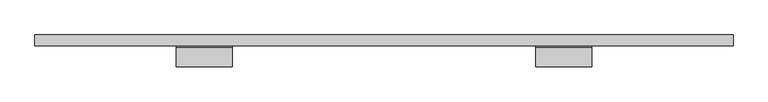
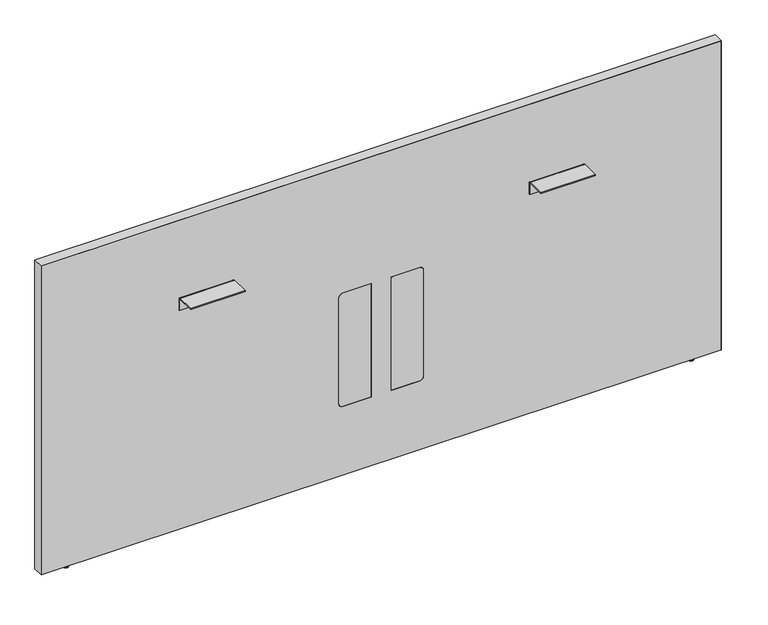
"""IFC4 building model written with IfcOpenShell, lengths in millimetres: furniture geometry, Steelcase - Answer Solution - Boundary Screen - Straight - Spanning : 36H x 75W."""

import ifcopenshell
import ifcopenshell.guid

model = None  # the IFC model being written
_history = None  # IfcOwnerHistory: only IFC2X3 demands one
_inside = {}  # id of a spatial element -> (the spatial element, [elements in it])
_under = {}  # id of a project, library or spatial element -> (it, [spatial elements below it])
_declared = {}  # id of a project -> (the project, [libraries it declares])
_typed = {}  # id of a type object -> (the type object, [elements of that type])
_made_of = {}  # id of a material, layer set ... -> (it, [elements and type objects made of it])


def new_model(schema):
    """Start an empty IFC model of exactly this schema.

    Asked for "IFC4X3", IfcOpenShell would pick the latest addendum, in which some entities
    have other attributes; the version numbers below select the first issue.
    IFC2X3 requires an IfcOwnerHistory on every rooted entity: one is made here for all.
    """
    global model, _history
    if schema == "IFC4X3":
        model = ifcopenshell.file(schema_version=(4, 3, 0, 0))
    else:
        model = ifcopenshell.file(schema=schema)
    _inside.clear()
    _under.clear()
    _declared.clear()
    _typed.clear()
    _made_of.clear()
    _history = None
    if model.schema == "IFC2X3":
        org = make("IfcOrganization", Name="unknown")
        user = make(
            "IfcPersonAndOrganization",
            ThePerson=make("IfcPerson", FamilyName="unknown"),
            TheOrganization=org,
        )
        app = make(
            "IfcApplication",
            ApplicationDeveloper=org,
            Version="unknown",
            ApplicationFullName="unknown",
            ApplicationIdentifier="unknown",
        )
        _history = make(
            "IfcOwnerHistory",
            OwningUser=user,
            OwningApplication=app,
            ChangeAction="ADDED",
            CreationDate=0,
        )
    return model


def make(cls, **values):
    """One entity of the class cls with the attributes given. An attribute that is None is left unset."""
    return model.create_entity(
        cls, **{name: value for name, value in values.items() if value is not None}
    )


def rooted(cls, **values):
    """An entity with a GlobalId (a new one), such as an element, a storey or a relation."""
    return make(cls, GlobalId=ifcopenshell.guid.new(), OwnerHistory=_history, **values)


def si_unit(unit_type, name, prefix=None):
    """IfcSIUnit, for example si_unit("LENGTHUNIT", "METRE", prefix="MILLI")."""
    return make("IfcSIUnit", UnitType=unit_type, Prefix=prefix, Name=name)


def assignment(units):
    """IfcUnitAssignment: the units of a project."""
    return None if units is None else make("IfcUnitAssignment", Units=units)


def point(xyz):
    """IfcCartesianPoint."""
    return None if xyz is None else make("IfcCartesianPoint", Coordinates=xyz)


def direction(xyz):
    """IfcDirection."""
    return None if xyz is None else make("IfcDirection", DirectionRatios=xyz)


def frame(location, z_axis=None, x_axis=None):
    """IfcAxis2Placement3D, a coordinate frame: its origin and axes. An axis left out is left unset."""
    return make(
        "IfcAxis2Placement3D",
        Location=point(location),
        Axis=direction(z_axis),
        RefDirection=direction(x_axis),
    )


def frame_2d(location, x_axis=None):
    """IfcAxis2Placement2D, a coordinate frame in the plane: its origin and x axis."""
    return make(
        "IfcAxis2Placement2D", Location=point(location), RefDirection=direction(x_axis)
    )


def origin():
    """The frame at (0, 0, 0) with its axes left unset."""
    return frame((0.0, 0.0, 0.0))


def place(relative_to, where):
    """IfcLocalPlacement: puts the frame where relative to a parent placement (None: the world)."""
    return make(
        "IfcLocalPlacement", PlacementRelTo=relative_to, RelativePlacement=where
    )


def context(
    kind, dimensions, precision=None, world=None, true_north=None, identifier=None
):
    """IfcGeometricRepresentationContext, for example the 3D "Model" context."""
    return make(
        "IfcGeometricRepresentationContext",
        ContextIdentifier=identifier,
        ContextType=kind,
        CoordinateSpaceDimension=dimensions,
        Precision=precision,
        WorldCoordinateSystem=world,
        TrueNorth=true_north,
    )


def project(units=None, contexts=None):
    """IfcProject with its units and contexts."""
    return rooted(
        "IfcProject",
        Name="project",
        RepresentationContexts=contexts,
        UnitsInContext=assignment(units),
    )


def spatial(cls, under=None, at=None, **own):
    """A site, building, storey or space (cls), placed at a placement, below another one or the project."""
    s = rooted(cls, ObjectPlacement=at, **own)
    if under is not None:
        _under.setdefault(under.id(), (under, []))[1].append(s)
    return s


def polyline(points):
    """IfcPolyline through the points."""
    return make("IfcPolyline", Points=[point(p) for p in points])


def circle_curve(where, radius):
    """IfcCircle in the frame where."""
    return make("IfcCircle", Position=where, Radius=radius)


def ellipse_curve(where, semi_axis1, semi_axis2):
    """IfcEllipse in the frame where."""
    return make(
        "IfcEllipse", Position=where, SemiAxis1=semi_axis1, SemiAxis2=semi_axis2
    )


def trimmed(basis, trim1, trim2, sense, master):
    """IfcTrimmedCurve: the piece of a basis curve between two trims."""
    return make(
        "IfcTrimmedCurve",
        BasisCurve=basis,
        Trim1=trim1,
        Trim2=trim2,
        SenseAgreement=sense,
        MasterRepresentation=master,
    )


def segment(curve, same_sense, transition):
    """IfcCompositeCurveSegment."""
    return make(
        "IfcCompositeCurveSegment",
        Transition=transition,
        SameSense=same_sense,
        ParentCurve=curve,
    )


def composite_curve(segments, self_intersect=None):
    """IfcCompositeCurve: segments joined end to end."""
    return make("IfcCompositeCurve", Segments=segments, SelfIntersect=self_intersect)


def outline(outer, holes=None, kind="AREA"):
    """IfcArbitraryClosedProfileDef: a profile drawn as a closed curve; with holes, ...WithVoids."""
    if holes is None:
        return make("IfcArbitraryClosedProfileDef", ProfileType=kind, OuterCurve=outer)
    return make(
        "IfcArbitraryProfileDefWithVoids",
        ProfileType=kind,
        OuterCurve=outer,
        InnerCurves=holes,
    )


def extrude(swept, where, along, depth):
    """IfcExtrudedAreaSolid: the profile swept, set in the frame where, extruded along a direction by depth."""
    return make(
        "IfcExtrudedAreaSolid",
        SweptArea=swept,
        Position=where,
        ExtrudedDirection=direction(along),
        Depth=depth,
    )


def shape(context_of_items, identifier, shape_type, items):
    """IfcShapeRepresentation: the items that make up one representation, for example the "Body"."""
    return make(
        "IfcShapeRepresentation",
        ContextOfItems=context_of_items,
        RepresentationIdentifier=identifier,
        RepresentationType=shape_type,
        Items=items,
    )


def source(mapping_origin, context_of_items, identifier, shape_type, items):
    """IfcRepresentationMap: a shape defined once, which mapped items show again and again."""
    return make(
        "IfcRepresentationMap",
        MappingOrigin=mapping_origin,
        MappedRepresentation=shape(context_of_items, identifier, shape_type, items),
    )


def transform(
    local_origin,
    x_axis=None,
    y_axis=None,
    z_axis=None,
    scale=None,
    scale2=None,
    scale3=None,
    uniform=True,
):
    """IfcCartesianTransformationOperator3D, or its non-uniform kind. x_axis, y_axis, z_axis: its Axis1, 2, 3."""
    if uniform:
        return make(
            "IfcCartesianTransformationOperator3D",
            Axis1=direction(x_axis),
            Axis2=direction(y_axis),
            LocalOrigin=point(local_origin),
            Scale=scale,
            Axis3=direction(z_axis),
        )
    return make(
        "IfcCartesianTransformationOperator3DnonUniform",
        Axis1=direction(x_axis),
        Axis2=direction(y_axis),
        LocalOrigin=point(local_origin),
        Scale=scale,
        Axis3=direction(z_axis),
        Scale2=scale2,
        Scale3=scale3,
    )


def mapped(mapping_source, mapping_target):
    """IfcMappedItem: shows the shape of a source again, moved by a transform."""
    return make(
        "IfcMappedItem", MappingSource=mapping_source, MappingTarget=mapping_target
    )


def made_of(thing, what):
    """Note that an element or type object is made of a material, layer set ...; save() writes the relation."""
    if what is not None:
        _made_of.setdefault(what.id(), (what, []))[1].append(thing)
    return thing


def element(
    cls,
    number,
    at=None,
    inside=None,
    cuts=None,
    type_object=None,
    material=None,
    context=None,
    identifier="Body",
    shape_type=None,
    held_by="IfcProductDefinitionShape",
    body=None,
    shapes=None,
    **own,
):
    """One element of the class cls, such as IfcWall. Its Tag is "e" and its number.

    at: its placement. inside: the storey or other place that contains it. cuts: it is an
    opening in that element (IfcRelVoidsElement). A single representation is given by context,
    identifier, shape_type and body (its items); several are given by shapes. held_by: the class
    of the entity that holds the representations. save() writes the other relations.
    """
    e = rooted(cls, Tag="e%d" % number, ObjectPlacement=at, **own)
    if body is not None:
        shapes = [shape(context, identifier, shape_type, body)]
    if shapes is not None:
        e.Representation = make(held_by, Representations=shapes)
    if inside is not None:
        _inside.setdefault(inside.id(), (inside, []))[1].append(e)
    if cuts is not None:
        rooted(
            "IfcRelVoidsElement", RelatingBuildingElement=cuts, RelatedOpeningElement=e
        )
    if type_object is not None:
        _typed.setdefault(type_object.id(), (type_object, []))[1].append(e)
    return made_of(e, material)


def aggregate(whole, parts):
    """IfcRelAggregates: a whole, such as a stair, and the parts it consists of."""
    return rooted("IfcRelAggregates", RelatingObject=whole, RelatedObjects=parts)


def save(model, path):
    """Write the relations noted so far, then the file.

    IfcRelAggregates (storeys below a building ...), IfcRelContainedInSpatialStructure (elements
    in a storey), IfcRelDefinesByType, IfcRelAssociatesMaterial and IfcRelDeclares: one each for
    every whole, place, type object, material and project.
    """
    for whole, parts in _under.values():
        aggregate(whole, parts)
    for where, things in _inside.values():
        rooted(
            "IfcRelContainedInSpatialStructure",
            RelatedElements=things,
            RelatingStructure=where,
        )
    for kind, things in _typed.values():
        rooted("IfcRelDefinesByType", RelatedObjects=things, RelatingType=kind)
    for what, things in _made_of.values():
        rooted("IfcRelAssociatesMaterial", RelatedObjects=things, RelatingMaterial=what)
    for by, libraries in _declared.values():
        rooted("IfcRelDeclares", RelatingContext=by, RelatedDefinitions=libraries)
    model.write(path)


def plane_surface(at):
    """IfcPlane: the flat surface through the origin of the frame at, square to its z axis."""
    return make("IfcPlane", Position=at)


def cylinder_surface(at, radius):
    """IfcCylindricalSurface: all points at the distance radius from the z axis of the frame at."""
    return make("IfcCylindricalSurface", Position=at, Radius=radius)


def revolved_surface(curve, axis_point, axis_direction):
    """IfcSurfaceOfRevolution: the curve turned about the line through axis_point along axis_direction."""
    return make(
        "IfcSurfaceOfRevolution",
        SweptCurve=make("IfcArbitraryOpenProfileDef", ProfileType="CURVE", Curve=curve),
        AxisPosition=make("IfcAxis1Placement", Location=point(axis_point), Axis=direction(axis_direction)),
    )


def advanced_brep(points, edges, surfaces, faces):
    """IfcAdvancedBrep: a solid bounded by faces that lie on surfaces and meet in shared edges.

    An edge is (start, end): straight between two places in points (the first is 0);
    or (start, end, curve); or (start, end, curve, False) where it runs against its curve.
    A face is (place in surfaces, loops), or (place, loops, False) where it looks against
    its surface's normal. A loop lists edges by number (the first is 1), with a minus sign
    where the edge is run from its end to its start. The first loop is the outer one.
    """
    corners = [point(p) for p in points]
    vertices = [make("IfcVertexPoint", VertexGeometry=c) for c in corners]
    made = []
    for start, end, *more in edges:
        made.append(
            make(
                "IfcEdgeCurve",
                EdgeStart=vertices[start],
                EdgeEnd=vertices[end],
                EdgeGeometry=more[0] if more else make("IfcPolyline", Points=[corners[start], corners[end]]),
                SameSense=more[1] if len(more) > 1 else True,
            )
        )
    hull = []
    for where, loops, *sense in faces:
        bounds = []
        for j, loop in enumerate(loops):
            ring = [make("IfcOrientedEdge", EdgeElement=made[abs(k) - 1], Orientation=k > 0) for k in loop]
            bounds.append(
                make(
                    "IfcFaceOuterBound" if j == 0 else "IfcFaceBound",
                    Bound=make("IfcEdgeLoop", EdgeList=ring),
                    Orientation=True,
                )
            )
        hull.append(make("IfcAdvancedFace", Bounds=bounds, FaceSurface=surfaces[where], SameSense=sense[0] if sense else True))
    return make("IfcAdvancedBrep", Outer=make("IfcClosedShell", CfsFaces=hull))


def furniture_1afd465d(model_context):
    return source(origin(), model_context, "Body", "SolidModel", [
        advanced_brep(
        [(-645.4902705, -14.8449166, 9.9059849), (-645.4902705, -5.9309607, 9.9059849), (-645.4902705, -23.7588726, 9.9059849), (-645.4902705, -5.9309607, 2.9673238), (-645.4902705, -23.7588726, 2.9673238), (-645.4902705, -6.8982978, 2.9673238), (-645.4902705, -22.7915354, 2.9673238), (-645.4902705, -6.8982978, 1.6569081), (-645.4902705, -22.7915354, 1.6569081), (-645.4902705, -8.5552059, 0.0), (-645.4902705, -21.1346274, 0.0), (-645.4902705, -14.8449166, 0.0)],
        [
            (0, 1),
            (1, 2, circle_curve(frame((-645.4902705, -14.8449166, 9.9059849), z_axis=(0.0, 0.0, 1.0), x_axis=(0.0, 1.0, 0.0)), 8.913956)),
            (2, 0),
            (2, 1, circle_curve(frame((-645.4902705, -14.8449166, 9.9059849), z_axis=(0.0, 0.0, 1.0), x_axis=(0.0, 1.0, 0.0)), 8.913956)),
            (1, 3),
            (3, 4, circle_curve(frame((-645.4902705, -14.8449166, 2.9673238), z_axis=(0.0, 0.0, 1.0), x_axis=(0.0, 1.0, 0.0)), 8.913956)),
            (4, 2),
            (4, 3, circle_curve(frame((-645.4902705, -14.8449166, 2.9673238), z_axis=(0.0, 0.0, 1.0), x_axis=(0.0, 1.0, 0.0)), 8.913956)),
            (3, 5),
            (5, 6, circle_curve(frame((-645.4902705, -14.8449166, 2.9673238), z_axis=(0.0, 0.0, 1.0), x_axis=(0.0, 1.0, 0.0)), 7.9466188)),
            (6, 4),
            (6, 5, circle_curve(frame((-645.4902705, -14.8449166, 2.9673238), z_axis=(0.0, 0.0, 1.0), x_axis=(0.0, 1.0, 0.0)), 7.9466188)),
            (5, 7),
            (7, 8, circle_curve(frame((-645.4902705, -14.8449166, 1.6569081), z_axis=(0.0, 0.0, 1.0), x_axis=(0.0, 1.0, 0.0)), 7.9466188)),
            (8, 6),
            (8, 7, circle_curve(frame((-645.4902705, -14.8449166, 1.6569081), z_axis=(0.0, 0.0, 1.0), x_axis=(0.0, 1.0, 0.0)), 7.9466188)),
            (7, 9, circle_curve(frame((-645.4902705, -8.5552059, 1.6569081), z_axis=(-1.0, 0.0, 0.0), x_axis=(0.0, 1.0, 0.0)), 1.6569081)),
            (9, 10, circle_curve(frame((-645.4902705, -14.8449166, 0.0), z_axis=(0.0, 0.0, 1.0), x_axis=(0.0, 1.0, 0.0)), 6.2897107)),
            (10, 8, circle_curve(frame((-645.4902705, -21.1346274, 1.6569081), z_axis=(-1.0, 0.0, 0.0), x_axis=(0.0, -1.0, 0.0)), 1.6569081)),
            (10, 9, circle_curve(frame((-645.4902705, -14.8449166, 0.0), z_axis=(0.0, 0.0, 1.0), x_axis=(0.0, 1.0, 0.0)), 6.2897107)),
            (9, 11),
            (11, 10),
        ],
        [
            plane_surface(frame((-645.4902705, -14.8449166, 9.9059849), z_axis=(0.0, 0.0, 1.0), x_axis=(0.0, 1.0, 0.0))),
            cylinder_surface(frame((-645.4902705, -14.8449166, 9.9059849), z_axis=(0.0, 0.0, 1.0), x_axis=(0.0, 1.0, 0.0)), 8.913956),
            plane_surface(frame((-645.4902705, -14.8449166, 2.9673238), z_axis=(0.0, 0.0, -1.0), x_axis=(0.0, 1.0, 0.0))),
            cylinder_surface(frame((-645.4902705, -14.8449166, 9.9059849), z_axis=(0.0, 0.0, 1.0), x_axis=(0.0, 1.0, 0.0)), 7.9466188),
            revolved_surface(trimmed(ellipse_curve(frame((-645.4902705, -8.5552059, 1.6569081), z_axis=(1.0, 0.0, 0.0), x_axis=(0.0, 1.0, 0.0)), 1.6569081, 1.6569081), [point((-645.4902705, -8.5552059, 0.0))], [point((-645.4902705, -6.8982978, 1.6569081))], True, "CARTESIAN"), (-645.4902705, -14.8449166, 9.9059849), (0.0, 0.0, 1.0)),
            plane_surface(frame((-645.4902705, -14.8449166, 0.0), z_axis=(0.0, 0.0, -1.0), x_axis=(0.0, 1.0, 0.0))),
        ],
        [
            (0, [[1, 2, 3]]),
            (0, [[-3, 4, -1]]),
            (1, [[-2, 5, 6, 7]]),
            (1, [[-4, -7, 8, -5]]),
            (2, [[-6, 9, 10, 11]]),
            (2, [[-8, -11, 12, -9]]),
            (3, [[-10, 13, 14, 15]]),
            (3, [[-12, -15, 16, -13]]),
            (4, [[-14, 17, 18, 19]]),
            (4, [[-16, -19, 20, -17]]),
            (5, [[-18, 21, 22]]),
            (5, [[-20, -22, -21]]),
        ],
    ),
        extrude(outline(composite_curve([segment(polyline([(-86.8398151, 696.4680019), (-86.8398151, 698.5), (-34.9450855, 698.5)]), True, "CONTINUOUS"), segment(trimmed(circle_curve(frame_2d((-34.9450855, 693.2447477)), 5.2552523), [point((-34.9450855, 698.5))], [point((-29.6898332, 693.2447477))], False, "CARTESIAN"), True, "CONTINUOUS"), segment(polyline([(-29.6898332, 693.2447477), (-29.6898332, 660.4), (-31.7218162, 660.4), (-31.7218162, 693.0058743)]), True, "CONTINUOUS"), segment(trimmed(circle_curve(frame_2d((-35.1839438, 693.0058743)), 3.4621276), [point((-31.7218162, 693.0058743))], [point((-35.1839438, 696.4680019))], True, "CARTESIAN"), True, "CONTINUOUS"), segment(polyline([(-35.1839438, 696.4680019), (-86.8398151, 696.4680019)]), True, "CONTINUOUS")], self_intersect=False)), frame((644.0282189, 0.0, 0.0), z_axis=(1.0, 0.0, 0.0), x_axis=(0.0, 1.0, 0.0)), (0.0, 0.0, 1.0), 152.4000969),
        extrude(outline(composite_curve([segment(polyline([(-86.8398151, 696.4680019), (-86.8398151, 698.5), (-34.9450855, 698.5)]), True, "CONTINUOUS"), segment(trimmed(circle_curve(frame_2d((-34.9450855, 693.2447477)), 5.2552523), [point((-34.9450855, 698.5))], [point((-29.6898332, 693.2447477))], False, "CARTESIAN"), True, "CONTINUOUS"), segment(polyline([(-29.6898332, 693.2447477), (-29.6898332, 660.4), (-31.7218162, 660.4), (-31.7218162, 693.0058743)]), True, "CONTINUOUS"), segment(trimmed(circle_curve(frame_2d((-35.1839438, 693.0058743)), 3.4621276), [point((-31.7218162, 693.0058743))], [point((-35.1839438, 696.4680019))], True, "CARTESIAN"), True, "CONTINUOUS"), segment(polyline([(-35.1839438, 696.4680019), (-86.8398151, 696.4680019)]), True, "CONTINUOUS")], self_intersect=False)), frame((-336.7884581, 0.0, 0.0), z_axis=(1.0, 0.0, 0.0), x_axis=(0.0, 1.0, 0.0)), (0.0, 0.0, 1.0), 152.4000969),
        advanced_brep(
        [(1105.1286488, -23.7588726, 9.9059849), (1105.1286488, -5.9309607, 9.9059849), (1105.1286488, -14.8449166, 9.9059849), (1105.1286488, -23.7588726, 2.9673238), (1105.1286488, -5.9309607, 2.9673238), (1105.1286488, -22.7915354, 2.9673238), (1105.1286488, -6.8982978, 2.9673238), (1105.1286488, -22.7915354, 1.6569081), (1105.1286488, -6.8982978, 1.6569081), (1105.1286488, -21.1346274, 0.0), (1105.1286488, -8.5552059, 0.0), (1105.1286488, -14.8449166, 0.0)],
        [
            (0, 1, circle_curve(frame((1105.1286488, -14.8449166, 9.9059849), z_axis=(0.0, 0.0, 1.0), x_axis=(0.0, 1.0, 0.0)), 8.913956)),
            (1, 2),
            (2, 0),
            (1, 0, circle_curve(frame((1105.1286488, -14.8449166, 9.9059849), z_axis=(0.0, 0.0, 1.0), x_axis=(0.0, 1.0, 0.0)), 8.913956)),
            (3, 4, circle_curve(frame((1105.1286488, -14.8449166, 2.9673238), z_axis=(0.0, 0.0, 1.0), x_axis=(0.0, 1.0, 0.0)), 8.913956)),
            (4, 1),
            (0, 3),
            (4, 3, circle_curve(frame((1105.1286488, -14.8449166, 2.9673238), z_axis=(0.0, 0.0, 1.0), x_axis=(0.0, 1.0, 0.0)), 8.913956)),
            (5, 6, circle_curve(frame((1105.1286488, -14.8449166, 2.9673238), z_axis=(0.0, 0.0, 1.0), x_axis=(0.0, 1.0, 0.0)), 7.9466188)),
            (6, 4),
            (3, 5),
            (6, 5, circle_curve(frame((1105.1286488, -14.8449166, 2.9673238), z_axis=(0.0, 0.0, 1.0), x_axis=(0.0, 1.0, 0.0)), 7.9466188)),
            (7, 8, circle_curve(frame((1105.1286488, -14.8449166, 1.6569081), z_axis=(0.0, 0.0, 1.0), x_axis=(0.0, 1.0, 0.0)), 7.9466188)),
            (8, 6),
            (5, 7),
            (8, 7, circle_curve(frame((1105.1286488, -14.8449166, 1.6569081), z_axis=(0.0, 0.0, 1.0), x_axis=(0.0, 1.0, 0.0)), 7.9466188)),
            (9, 10, circle_curve(frame((1105.1286488, -14.8449166, 0.0), z_axis=(0.0, 0.0, 1.0), x_axis=(0.0, 1.0, 0.0)), 6.2897107)),
            (10, 8, circle_curve(frame((1105.1286488, -8.5552059, 1.6569081), z_axis=(1.0, 0.0, 0.0), x_axis=(0.0, 1.0, 0.0)), 1.6569081)),
            (7, 9, circle_curve(frame((1105.1286488, -21.1346274, 1.6569081), z_axis=(1.0, 0.0, 0.0), x_axis=(0.0, -1.0, 0.0)), 1.6569081)),
            (10, 9, circle_curve(frame((1105.1286488, -14.8449166, 0.0), z_axis=(0.0, 0.0, 1.0), x_axis=(0.0, 1.0, 0.0)), 6.2897107)),
            (11, 10),
            (9, 11),
        ],
        [
            plane_surface(frame((1105.1286488, -14.8449166, 9.9059849), z_axis=(0.0, 0.0, 1.0), x_axis=(0.0, 1.0, 0.0))),
            cylinder_surface(frame((1105.1286488, -14.8449166, 9.9059849), z_axis=(0.0, 0.0, -1.0), x_axis=(0.0, 1.0, 0.0)), 8.913956),
            plane_surface(frame((1105.1286488, -14.8449166, 2.9673238), z_axis=(0.0, 0.0, -1.0), x_axis=(0.0, 1.0, 0.0))),
            cylinder_surface(frame((1105.1286488, -14.8449166, 9.9059849), z_axis=(0.0, 0.0, -1.0), x_axis=(0.0, 1.0, 0.0)), 7.9466188),
            revolved_surface(trimmed(ellipse_curve(frame((1105.1286488, -8.5552059, 1.6569081), z_axis=(-1.0, 0.0, 0.0), x_axis=(0.0, 1.0, 0.0)), 1.6569081, 1.6569081), [point((1105.1286488, -6.8982978, 1.6569081))], [point((1105.1286488, -8.5552059, 0.0))], True, "CARTESIAN"), (1105.1286488, -14.8449166, 9.9059849), (0.0, 0.0, -1.0)),
            plane_surface(frame((1105.1286488, -14.8449166, 0.0), z_axis=(0.0, 0.0, -1.0), x_axis=(0.0, 1.0, 0.0))),
        ],
        [
            (0, [[1, 2, 3]]),
            (0, [[4, -3, -2]]),
            (1, [[5, 6, -1, 7]]),
            (1, [[8, -7, -4, -6]]),
            (2, [[9, 10, -5, 11]]),
            (2, [[12, -11, -8, -10]]),
            (3, [[13, 14, -9, 15]]),
            (3, [[16, -15, -12, -14]]),
            (4, [[17, 18, -13, 19]]),
            (4, [[20, -19, -16, -18]]),
            (5, [[21, -17, 22]]),
            (5, [[-22, -20, -21]]),
        ],
    ),
        advanced_brep(
        [(1181.2780168, 0.0, 924.342118), (1181.2780168, 0.0, 9.9059849), (-721.6902221, 0.0, 9.9059849), (-721.6902221, 0.0, 924.342118), (1181.2780168, -29.6898332, 924.342118), (-721.6902221, -29.6898332, 924.342118), (-721.6902221, -29.6898332, 9.9059849), (1181.2780168, -29.6898332, 9.9059849), (337.7883813, -29.6898332, 549.6162029), (347.9483813, -29.6898332, 539.4562029), (347.9483813, -29.6898332, 223.9362137), (337.7883813, -29.6898332, 213.7762137), (258.1344836, -29.6898332, 213.7762137), (258.1344836, -29.6898332, 549.6162029), (121.849997, -29.6898332, 549.6162029), (201.5038947, -29.6898332, 549.6162029), (201.5038947, -29.6898332, 213.7762137), (121.849997, -29.6898332, 213.7762137), (111.689997, -29.6898332, 223.9362137), (111.689997, -29.6898332, 539.4562029), (258.1344836, -29.0550397, 549.6162029), (337.7883813, -29.0550397, 549.6162029), (258.1344836, -29.0550397, 213.7762137), (337.7883813, -29.0550397, 213.7762137), (347.9483813, -29.0550397, 223.9362137), (347.9483813, -29.0550397, 539.4562029), (121.849997, -29.0550397, 549.6162029), (111.689997, -29.0550397, 539.4562029), (111.689997, -29.0550397, 223.9362137), (121.849997, -29.0550397, 213.7762137), (201.5038947, -29.0550397, 213.7762137), (201.5038947, -29.0550397, 549.6162029)],
        [
            (0, 1),
            (1, 2),
            (2, 3),
            (3, 0),
            (4, 5),
            (5, 6),
            (6, 7),
            (7, 4),
            (8, 9, circle_curve(frame((337.7883813, -29.6898332, 539.4562029), z_axis=(0.0, 1.0, 0.0), x_axis=(0.0, 0.0, 1.0)), 10.16)),
            (9, 10),
            (10, 11, circle_curve(frame((337.7883813, -29.6898332, 223.9362137), z_axis=(0.0, 1.0, 0.0), x_axis=(0.0, 0.0, 1.0)), 10.16)),
            (11, 12),
            (12, 13),
            (13, 8),
            (14, 15),
            (15, 16),
            (16, 17),
            (17, 18, circle_curve(frame((121.849997, -29.6898332, 223.9362137), z_axis=(0.0, 1.0, 0.0), x_axis=(0.0, 0.0, 1.0)), 10.16)),
            (18, 19),
            (19, 14, circle_curve(frame((121.849997, -29.6898332, 539.4562029), z_axis=(0.0, 1.0, 0.0), x_axis=(0.0, 0.0, 1.0)), 10.16)),
            (0, 4),
            (7, 1),
            (6, 2),
            (5, 3),
            (13, 20),
            (20, 21),
            (21, 8),
            (12, 22),
            (22, 20),
            (11, 23),
            (23, 22),
            (10, 24),
            (24, 23, circle_curve(frame((337.7883813, -29.0550397, 223.9362137), z_axis=(0.0, 1.0, 0.0), x_axis=(0.0, 0.0, 1.0)), 10.16)),
            (9, 25),
            (25, 24),
            (21, 25, circle_curve(frame((337.7883813, -29.0550397, 539.4562029), z_axis=(0.0, 1.0, 0.0), x_axis=(0.0, 0.0, 1.0)), 10.16)),
            (26, 27, circle_curve(frame((121.849997, -29.0550397, 539.4562029), z_axis=(0.0, -1.0, 0.0), x_axis=(0.0, 0.0, 1.0)), 10.16)),
            (27, 28),
            (28, 29, circle_curve(frame((121.849997, -29.0550397, 223.9362137), z_axis=(0.0, -1.0, 0.0), x_axis=(0.0, 0.0, 1.0)), 10.16)),
            (29, 30),
            (30, 31),
            (31, 26),
            (19, 27),
            (26, 14),
            (18, 28),
            (17, 29),
            (16, 30),
            (15, 31),
        ],
        [
            plane_surface(frame((1181.2780168, 0.0, 924.342118), z_axis=(0.0, 1.0, 0.0), x_axis=(0.0, 0.0, -1.0))),
            plane_surface(frame((1181.2780168, -29.6898332, 924.342118), z_axis=(0.0, -1.0, 0.0), x_axis=(0.0, 0.0, 1.0))),
            plane_surface(frame((1181.2780168, 0.0, 924.342118), z_axis=(1.0, 0.0, 0.0), x_axis=(0.0, -1.0, 0.0))),
            plane_surface(frame((1181.2780168, 0.0, 9.9059849), z_axis=(0.0, 0.0, -1.0), x_axis=(0.0, -1.0, 0.0))),
            plane_surface(frame((-721.6902221, 0.0, 9.9059849), z_axis=(-1.0, 0.0, 0.0), x_axis=(0.0, -1.0, 0.0))),
            plane_surface(frame((-721.6902221, 0.0, 924.342118), z_axis=(0.0, 0.0, 1.0), x_axis=(0.0, -1.0, 0.0))),
            plane_surface(frame((337.7883813, 0.0, 549.6162029), z_axis=(0.0, 0.0, -1.0), x_axis=(0.0, -1.0, 0.0))),
            plane_surface(frame((258.1344836, 0.0, 549.6162029), z_axis=(1.0, 0.0, 0.0), x_axis=(0.0, -1.0, 0.0))),
            plane_surface(frame((258.1344836, 0.0, 213.7762137), z_axis=(0.0, 0.0, 1.0), x_axis=(0.0, -1.0, 0.0))),
            revolved_surface(polyline([(337.7883813, -29.6898332, 234.0962137), (337.7883813, -29.0550397, 234.0962137)]), (337.7883813, -29.6898332, 223.9362137), (0.0, -1.0, 0.0)),
            plane_surface(frame((347.9483813, 0.0, 223.9362137), z_axis=(-1.0, 0.0, 0.0), x_axis=(0.0, -1.0, 0.0))),
            revolved_surface(polyline([(337.7883813, -29.6898332, 549.6162029), (337.7883813, -29.0550397, 549.6162029)]), (337.7883813, -29.6898332, 539.4562029), (0.0, -1.0, 0.0)),
            plane_surface(frame((347.9483813, -29.0550397, 549.6162029), z_axis=(0.0, -1.0, 0.0), x_axis=(0.0, 0.0, 1.0))),
            revolved_surface(polyline([(121.849997, -29.6898332, 549.6162029), (121.849997, -29.0550397, 549.6162029)]), (121.849997, -29.6898332, 539.4562029), (0.0, -1.0, 0.0)),
            plane_surface(frame((111.689997, 0.0, 539.4562029), z_axis=(1.0, 0.0, 0.0), x_axis=(0.0, -1.0, 0.0))),
            revolved_surface(polyline([(121.849997, -29.6898332, 234.0962137), (121.849997, -29.0550397, 234.0962137)]), (121.849997, -29.6898332, 223.9362137), (0.0, -1.0, 0.0)),
            plane_surface(frame((121.849997, 0.0, 213.7762137), z_axis=(0.0, 0.0, 1.0), x_axis=(0.0, -1.0, 0.0))),
            plane_surface(frame((201.5038947, 0.0, 213.7762137), z_axis=(-1.0, 0.0, 0.0), x_axis=(0.0, -1.0, 0.0))),
            plane_surface(frame((201.5038947, 0.0, 549.6162029), z_axis=(0.0, 0.0, -1.0), x_axis=(0.0, -1.0, 0.0))),
        ],
        [
            (0, [[1, 2, 3, 4]]),
            (1, [[5, 6, 7, 8], [9, 10, 11, 12, 13, 14], [15, 16, 17, 18, 19, 20]]),
            (2, [[-1, 21, -8, 22]]),
            (3, [[-2, -22, -7, 23]]),
            (4, [[-3, -23, -6, 24]]),
            (5, [[-4, -24, -5, -21]]),
            (6, [[-14, 25, 26, 27]]),
            (7, [[-13, 28, 29, -25]]),
            (8, [[-12, 30, 31, -28]]),
            (9, [[-11, 32, 33, -30]]),
            (10, [[-10, 34, 35, -32]]),
            (11, [[-9, -27, 36, -34]]),
            (12, [[-26, -29, -31, -33, -35, -36]]),
            (12, [[37, 38, 39, 40, 41, 42]]),
            (13, [[-20, 43, -37, 44]]),
            (14, [[-19, 45, -38, -43]]),
            (15, [[-18, 46, -39, -45]]),
            (16, [[-17, 47, -40, -46]]),
            (17, [[-16, 48, -41, -47]]),
            (18, [[-15, -44, -42, -48]]),
        ],
    ),
        extrude(outline(composite_curve([segment(polyline([(549.6162029, 337.7883813), (549.6162029, 258.1344836), (213.7762137, 258.1344836), (213.7762137, 337.7883813)]), True, "CONTINUOUS"), segment(trimmed(circle_curve(frame_2d((223.9362137, 337.7883813)), 10.16), [point((213.7762137, 337.7883813))], [point((223.9362137, 347.9483813))], False, "CARTESIAN"), True, "CONTINUOUS"), segment(polyline([(223.9362137, 347.9483813), (539.4562029, 347.9483813)]), True, "CONTINUOUS"), segment(trimmed(circle_curve(frame_2d((539.4562029, 337.7883813)), 10.16), [point((539.4562029, 347.9483813))], [point((549.6162029, 337.7883813))], False, "CARTESIAN"), True, "CONTINUOUS")], self_intersect=False)), frame((0.0, -29.6898332, 0.0), z_axis=(0.0, 1.0, 0.0), x_axis=(0.0, 0.0, 1.0)), (0.0, 0.0, 1.0), 0.6347935),
        extrude(outline(composite_curve([segment(trimmed(circle_curve(frame_2d((539.4562029, 121.849997)), 10.16), [point((549.6162029, 121.849997))], [point((539.4562029, 111.689997))], False, "CARTESIAN"), True, "CONTINUOUS"), segment(polyline([(539.4562029, 111.689997), (223.9362137, 111.689997)]), True, "CONTINUOUS"), segment(trimmed(circle_curve(frame_2d((223.9362137, 121.849997)), 10.16), [point((223.9362137, 111.689997))], [point((213.7762137, 121.849997))], False, "CARTESIAN"), True, "CONTINUOUS"), segment(polyline([(213.7762137, 121.849997), (213.7762137, 201.5038947), (549.6162029, 201.5038947), (549.6162029, 121.849997)]), True, "CONTINUOUS")], self_intersect=False)), frame((0.0, -29.6898332, 0.0), z_axis=(0.0, 1.0, 0.0), x_axis=(0.0, 0.0, 1.0)), (0.0, 0.0, 1.0), 0.6347935),
        extrude(outline(polyline([(925.322, 1182.3191891), (925.322, -722.6808109), (9.9059849, -722.6808109), (9.9059849, -721.6902221), (924.342118, -721.6902221), (924.342118, 1181.2780168), (9.9059849, 1181.2780168), (9.9059849, 1182.3191891), (925.322, 1182.3191891)])), frame((0.0, -29.6898332, 0.0), z_axis=(0.0, 1.0, 0.0), x_axis=(0.0, 0.0, 1.0)), (0.0, 0.0, 1.0), 29.6898332),
    ])


if __name__ == "__main__":
    model = new_model("IFC4")
    model_context = context("Model", 3, world=origin())
    ifc_project = project(units=[si_unit("LENGTHUNIT", "METRE", prefix="MILLI")], contexts=[model_context])
    site = spatial("IfcSite", under=ifc_project)
    building = spatial("IfcBuilding", under=site)
    placement = place(None, origin())
    furniture_shape = furniture_1afd465d(model_context)
    element("IfcFurniture", 1, ObjectType="Steelcase - Answer Solution - Boundary Screen - Straight - Spanning : 36H x 75W", at=placement, inside=building, context=model_context, shape_type="MappedRepresentation", body=[
        mapped(furniture_shape, transform((0.0, 0.0, 0.0), x_axis=(1.0, 0.0, 0.0), y_axis=(0.0, 1.0, 0.0), z_axis=(0.0, 0.0, 1.0))),
    ])
    save(model, "model.ifc")
